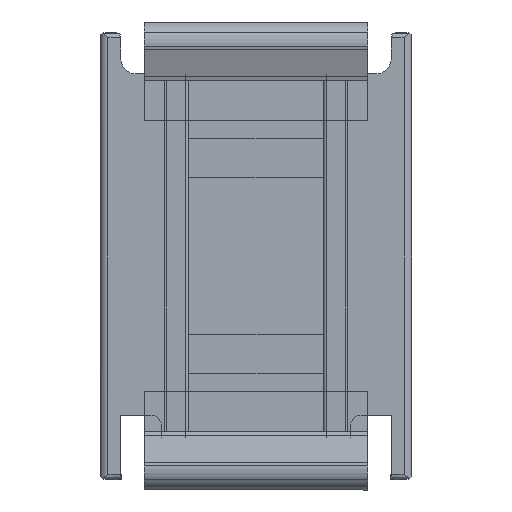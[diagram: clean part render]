
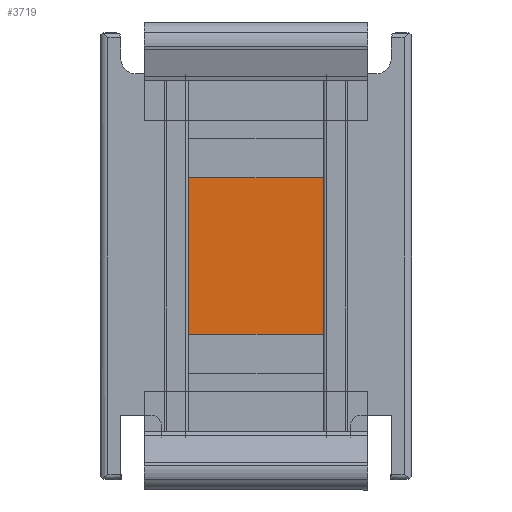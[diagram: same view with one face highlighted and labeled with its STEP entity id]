
A CAD part, front view. The second image highlights one B-rep face of the part: STEP entity #3719.
In plain terms, the highlighted planar face has unit normal (0, -1, 0).
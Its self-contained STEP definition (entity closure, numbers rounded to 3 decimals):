
#141 = CARTESIAN_POINT ( 'NONE',  ( 8619.75, -7816.2, 409.445 ) ) ;
#153 = CARTESIAN_POINT ( 'NONE',  ( 8658.25, -7816.2, 327.445 ) ) ;
#340 = VERTEX_POINT ( 'NONE', #11872 ) ;
#568 = AXIS2_PLACEMENT_3D ( 'NONE', #5523, #2265, #12010 ) ;
#609 = DIRECTION ( 'NONE',  ( -1., 0., 0. ) ) ;
#620 = ORIENTED_EDGE ( 'NONE', *, *, #5441, .F. ) ;
#891 = VECTOR ( 'NONE', #1278, 1000. ) ;
#996 = CARTESIAN_POINT ( 'NONE',  ( 8632.9, -7816.2, 325.945 ) ) ;
#1018 = CIRCLE ( 'NONE', #568, 4.5 ) ;
#1137 = VECTOR ( 'NONE', #3836, 1000. ) ;
#1238 = ORIENTED_EDGE ( 'NONE', *, *, #11634, .F. ) ;
#1278 = DIRECTION ( 'NONE',  ( -1., 0., 0. ) ) ;
#1716 = CARTESIAN_POINT ( 'NONE',  ( 8661.9, -7816.2, 327.445 ) ) ;
#1853 = DIRECTION ( 'NONE',  ( 0., 0., 1. ) ) ;
#1925 = ORIENTED_EDGE ( 'NONE', *, *, #7661, .F. ) ;
#2265 = DIRECTION ( 'NONE',  ( 0., -1., 0. ) ) ;
#2446 = VERTEX_POINT ( 'NONE', #3874 ) ;
#2476 = DIRECTION ( 'NONE',  ( -1., 0., 0. ) ) ;
#2489 = DIRECTION ( 'NONE',  ( 0., 0., 1. ) ) ;
#2601 = CARTESIAN_POINT ( 'NONE',  ( 8640.5, -7816.2, 327.445 ) ) ;
#2769 = CARTESIAN_POINT ( 'NONE',  ( 8619.75, -7816.2, 327.445 ) ) ;
#3082 = EDGE_CURVE ( 'NONE', #9504, #11168, #13490, .T. ) ;
#3127 = DIRECTION ( 'NONE',  ( -1., 0., 0. ) ) ;
#3129 = LINE ( 'NONE', #996, #5914 ) ;
#3171 = EDGE_CURVE ( 'NONE', #4987, #11277, #9614, .T. ) ;
#3719 = ADVANCED_FACE ( 'NONE', ( #11188 ), #12382, .T. ) ;
#3836 = DIRECTION ( 'NONE',  ( 0., 0., -1. ) ) ;
#3874 = CARTESIAN_POINT ( 'NONE',  ( 8632.9, -7816.2, 409.445 ) ) ;
#3937 = EDGE_LOOP ( 'NONE', ( #7924, #5331, #10502, #1238, #620, #1925, #11495, #5627, #5501, #11192 ) ) ;
#4123 = CARTESIAN_POINT ( 'NONE',  ( 8651.9, -7816.2, 351.945 ) ) ;
#4403 = CARTESIAN_POINT ( 'NONE',  ( 8636.55, -7816.2, 327.445 ) ) ;
#4662 = LINE ( 'NONE', #2769, #9704 ) ;
#4768 = DIRECTION ( 'NONE',  ( 1., 0., 0. ) ) ;
#4987 = VERTEX_POINT ( 'NONE', #2601 ) ;
#5170 = DIRECTION ( 'NONE',  ( 0., 0., 1. ) ) ;
#5331 = ORIENTED_EDGE ( 'NONE', *, *, #5750, .F. ) ;
#5441 = EDGE_CURVE ( 'NONE', #340, #13953, #7224, .T. ) ;
#5501 = ORIENTED_EDGE ( 'NONE', *, *, #11395, .F. ) ;
#5523 = CARTESIAN_POINT ( 'NONE',  ( 8647.4, -7816.2, 336.945 ) ) ;
#5627 = ORIENTED_EDGE ( 'NONE', *, *, #12579, .T. ) ;
#5638 = EDGE_CURVE ( 'NONE', #9811, #8953, #10896, .T. ) ;
#5750 = EDGE_CURVE ( 'NONE', #11168, #4987, #4662, .T. ) ;
#5914 = VECTOR ( 'NONE', #1853, 1000. ) ;
#6195 = LINE ( 'NONE', #9165, #8520 ) ;
#7224 = LINE ( 'NONE', #4123, #12626 ) ;
#7556 = VECTOR ( 'NONE', #7701, 1000. ) ;
#7622 = CARTESIAN_POINT ( 'NONE',  ( 8632.9, -7816.2, 327.445 ) ) ;
#7661 = EDGE_CURVE ( 'NONE', #8953, #340, #6195, .T. ) ;
#7701 = DIRECTION ( 'NONE',  ( 1., 0., 0. ) ) ;
#7924 = ORIENTED_EDGE ( 'NONE', *, *, #3171, .F. ) ;
#8057 = LINE ( 'NONE', #8919, #13598 ) ;
#8520 = VECTOR ( 'NONE', #609, 1000. ) ;
#8687 = DIRECTION ( 'NONE',  ( 0., -1., 0. ) ) ;
#8699 = VERTEX_POINT ( 'NONE', #11670 ) ;
#8919 = CARTESIAN_POINT ( 'NONE',  ( 8661.9, -7816.2, 325.945 ) ) ;
#8953 = VERTEX_POINT ( 'NONE', #13350 ) ;
#9165 = CARTESIAN_POINT ( 'NONE',  ( 8619.75, -7816.2, 327.445 ) ) ;
#9356 = CARTESIAN_POINT ( 'NONE',  ( 8651.9, -7816.2, 336.945 ) ) ;
#9504 = VERTEX_POINT ( 'NONE', #11625 ) ;
#9614 = LINE ( 'NONE', #4403, #11289 ) ;
#9704 = VECTOR ( 'NONE', #2476, 1000. ) ;
#9811 = VERTEX_POINT ( 'NONE', #1716 ) ;
#9817 = LINE ( 'NONE', #141, #7556 ) ;
#10126 = CARTESIAN_POINT ( 'NONE',  ( 8619.75, -7816.2, 325.945 ) ) ;
#10502 = ORIENTED_EDGE ( 'NONE', *, *, #3082, .F. ) ;
#10896 = LINE ( 'NONE', #153, #891 ) ;
#11168 = VERTEX_POINT ( 'NONE', #13291 ) ;
#11188 = FACE_OUTER_BOUND ( 'NONE', #3937, .T. ) ;
#11192 = ORIENTED_EDGE ( 'NONE', *, *, #13885, .F. ) ;
#11277 = VERTEX_POINT ( 'NONE', #7622 ) ;
#11289 = VECTOR ( 'NONE', #3127, 1000. ) ;
#11299 = AXIS2_PLACEMENT_3D ( 'NONE', #10126, #8687, #4768 ) ;
#11387 = CARTESIAN_POINT ( 'NONE',  ( 8642.9, -7816.2, 351.945 ) ) ;
#11395 = EDGE_CURVE ( 'NONE', #2446, #8699, #9817, .T. ) ;
#11495 = ORIENTED_EDGE ( 'NONE', *, *, #5638, .F. ) ;
#11625 = CARTESIAN_POINT ( 'NONE',  ( 8642.9, -7816.2, 336.945 ) ) ;
#11634 = EDGE_CURVE ( 'NONE', #13953, #9504, #1018, .T. ) ;
#11670 = CARTESIAN_POINT ( 'NONE',  ( 8661.9, -7816.2, 409.445 ) ) ;
#11872 = CARTESIAN_POINT ( 'NONE',  ( 8651.9, -7816.2, 327.445 ) ) ;
#12010 = DIRECTION ( 'NONE',  ( 1., 0., 0. ) ) ;
#12382 = PLANE ( 'NONE',  #11299 ) ;
#12579 = EDGE_CURVE ( 'NONE', #9811, #8699, #8057, .T. ) ;
#12626 = VECTOR ( 'NONE', #5170, 1000. ) ;
#13291 = CARTESIAN_POINT ( 'NONE',  ( 8642.9, -7816.2, 327.445 ) ) ;
#13350 = CARTESIAN_POINT ( 'NONE',  ( 8654.3, -7816.2, 327.445 ) ) ;
#13490 = LINE ( 'NONE', #11387, #1137 ) ;
#13598 = VECTOR ( 'NONE', #2489, 1000. ) ;
#13885 = EDGE_CURVE ( 'NONE', #11277, #2446, #3129, .T. ) ;
#13953 = VERTEX_POINT ( 'NONE', #9356 ) ;
